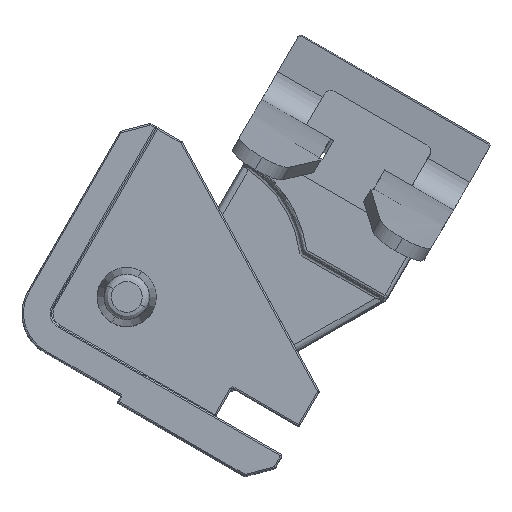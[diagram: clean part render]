
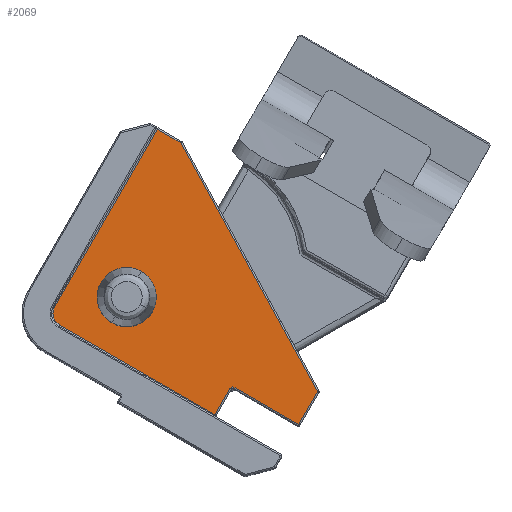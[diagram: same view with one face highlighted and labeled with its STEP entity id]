
A CAD part, top view. The second image highlights one B-rep face of the part: STEP entity #2069.
In plain terms, the highlighted planar face has unit normal (0, 0, 1).
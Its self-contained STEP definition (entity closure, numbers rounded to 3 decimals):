
#117 = DIRECTION ( 'NONE',  ( 1., 0., 0. ) ) ;
#329 = CARTESIAN_POINT ( 'NONE',  ( 4.2, 33.8, 19. ) ) ;
#432 = LINE ( 'NONE', #8897, #2531 ) ;
#497 = DIRECTION ( 'NONE',  ( 1., 0., 0. ) ) ;
#543 = DIRECTION ( 'NONE',  ( 1., 0., 0. ) ) ;
#805 = DIRECTION ( 'NONE',  ( 0., 0., 1. ) ) ;
#811 = EDGE_CURVE ( 'NONE', #4000, #4662, #6044, .T. ) ;
#869 = CARTESIAN_POINT ( 'NONE',  ( 4.2, 6., 19. ) ) ;
#931 = CARTESIAN_POINT ( 'NONE',  ( 16., 12., 19. ) ) ;
#936 = LINE ( 'NONE', #3901, #4251 ) ;
#1111 = DIRECTION ( 'NONE',  ( 1., 0., 0. ) ) ;
#1114 = VECTOR ( 'NONE', #1270, 1000. ) ;
#1270 = DIRECTION ( 'NONE',  ( 0., 1., 0. ) ) ;
#1475 = FACE_BOUND ( 'NONE', #7872, .T. ) ;
#1537 = CIRCLE ( 'NONE', #2079, 4. ) ;
#1747 = CARTESIAN_POINT ( 'NONE',  ( 30.3, 8.5, 19. ) ) ;
#1863 = EDGE_CURVE ( 'NONE', #8396, #2841, #936, .T. ) ;
#2069 = ADVANCED_FACE ( 'NONE', ( #8733, #1475 ), #8252, .T. ) ;
#2079 = AXIS2_PLACEMENT_3D ( 'NONE', #8534, #4355, #117 ) ;
#2223 = DIRECTION ( 'NONE',  ( 0., -1., 0. ) ) ;
#2472 = DIRECTION ( 'NONE',  ( -1., 0., 0. ) ) ;
#2531 = VECTOR ( 'NONE', #4009, 1000. ) ;
#2543 = VECTOR ( 'NONE', #2472, 1000. ) ;
#2572 = CARTESIAN_POINT ( 'NONE',  ( 40.8, 13.887, 19. ) ) ;
#2578 = EDGE_CURVE ( 'NONE', #8487, #8006, #5220, .T. ) ;
#2610 = ORIENTED_EDGE ( 'NONE', *, *, #7527, .T. ) ;
#2812 = ORIENTED_EDGE ( 'NONE', *, *, #3631, .T. ) ;
#2841 = VERTEX_POINT ( 'NONE', #7083 ) ;
#2975 = LINE ( 'NONE', #1747, #1114 ) ;
#3089 = DIRECTION ( 'NONE',  ( 0., 0., 1. ) ) ;
#3334 = CARTESIAN_POINT ( 'NONE',  ( 7.944, 33.8, 19. ) ) ;
#3393 = CARTESIAN_POINT ( 'NONE',  ( 30.7, 8.7, 19. ) ) ;
#3489 = VECTOR ( 'NONE', #2223, 1000. ) ;
#3518 = LINE ( 'NONE', #4830, #7250 ) ;
#3631 = EDGE_CURVE ( 'NONE', #5547, #4000, #3518, .T. ) ;
#3778 = VERTEX_POINT ( 'NONE', #7074 ) ;
#3901 = CARTESIAN_POINT ( 'NONE',  ( 6., 4.2, 19. ) ) ;
#3936 = ORIENTED_EDGE ( 'NONE', *, *, #2578, .F. ) ;
#3939 = EDGE_CURVE ( 'NONE', #2841, #3778, #2975, .T. ) ;
#3982 = ORIENTED_EDGE ( 'NONE', *, *, #5646, .T. ) ;
#4000 = VERTEX_POINT ( 'NONE', #7583 ) ;
#4009 = DIRECTION ( 'NONE',  ( -0.855, 0.518, 0. ) ) ;
#4056 = CARTESIAN_POINT ( 'NONE',  ( 6., 6., 19. ) ) ;
#4181 = VECTOR ( 'NONE', #7355, 1000. ) ;
#4251 = VECTOR ( 'NONE', #1111, 1000. ) ;
#4252 = EDGE_CURVE ( 'NONE', #8208, #8396, #5071, .T. ) ;
#4355 = DIRECTION ( 'NONE',  ( 0., 0., 1. ) ) ;
#4413 = LINE ( 'NONE', #329, #2543 ) ;
#4662 = VERTEX_POINT ( 'NONE', #2572 ) ;
#4732 = DIRECTION ( 'NONE',  ( 0., 0., 1. ) ) ;
#4782 = DIRECTION ( 'NONE',  ( 0., 0., 1. ) ) ;
#4830 = CARTESIAN_POINT ( 'NONE',  ( 41., 8.7, 19. ) ) ;
#4945 = ORIENTED_EDGE ( 'NONE', *, *, #3939, .T. ) ;
#5011 = AXIS2_PLACEMENT_3D ( 'NONE', #5025, #805, #5716 ) ;
#5025 = CARTESIAN_POINT ( 'NONE',  ( 30.7, 8.3, 19. ) ) ;
#5039 = CARTESIAN_POINT ( 'NONE',  ( 4.2, 6., 19. ) ) ;
#5071 = CIRCLE ( 'NONE', #8061, 1.8 ) ;
#5220 = CIRCLE ( 'NONE', #8808, 4. ) ;
#5242 = CARTESIAN_POINT ( 'NONE',  ( 40.8, 14., 19. ) ) ;
#5361 = LINE ( 'NONE', #5039, #3489 ) ;
#5367 = VERTEX_POINT ( 'NONE', #7352 ) ;
#5478 = VERTEX_POINT ( 'NONE', #3334 ) ;
#5547 = VERTEX_POINT ( 'NONE', #3393 ) ;
#5646 = EDGE_CURVE ( 'NONE', #5367, #8208, #5361, .T. ) ;
#5716 = DIRECTION ( 'NONE',  ( 1., 0., 0. ) ) ;
#5777 = ORIENTED_EDGE ( 'NONE', *, *, #7867, .F. ) ;
#6044 = LINE ( 'NONE', #5242, #4181 ) ;
#6254 = EDGE_LOOP ( 'NONE', ( #8771, #2610, #3982, #6436, #7279, #4945, #5777, #2812, #6499 ) ) ;
#6436 = ORIENTED_EDGE ( 'NONE', *, *, #4252, .T. ) ;
#6499 = ORIENTED_EDGE ( 'NONE', *, *, #811, .T. ) ;
#6625 = CARTESIAN_POINT ( 'NONE',  ( 6., 4.2, 19. ) ) ;
#7074 = CARTESIAN_POINT ( 'NONE',  ( 30.3, 8.3, 19. ) ) ;
#7083 = CARTESIAN_POINT ( 'NONE',  ( 30.3, 4.2, 19. ) ) ;
#7250 = VECTOR ( 'NONE', #7628, 1000. ) ;
#7274 = CARTESIAN_POINT ( 'NONE',  ( 6., 6., 19. ) ) ;
#7279 = ORIENTED_EDGE ( 'NONE', *, *, #1863, .T. ) ;
#7352 = CARTESIAN_POINT ( 'NONE',  ( 4.2, 33.8, 19. ) ) ;
#7355 = DIRECTION ( 'NONE',  ( 0., 1., 0. ) ) ;
#7373 = EDGE_CURVE ( 'NONE', #8006, #8487, #1537, .T. ) ;
#7527 = EDGE_CURVE ( 'NONE', #5478, #5367, #4413, .T. ) ;
#7583 = CARTESIAN_POINT ( 'NONE',  ( 40.8, 8.7, 19. ) ) ;
#7628 = DIRECTION ( 'NONE',  ( 1., 0., 0. ) ) ;
#7867 = EDGE_CURVE ( 'NONE', #5547, #3778, #8028, .T. ) ;
#7872 = EDGE_LOOP ( 'NONE', ( #3936, #8618 ) ) ;
#7981 = DIRECTION ( 'NONE',  ( 1., 0., 0. ) ) ;
#8006 = VERTEX_POINT ( 'NONE', #931 ) ;
#8028 = CIRCLE ( 'NONE', #5011, 0.4 ) ;
#8061 = AXIS2_PLACEMENT_3D ( 'NONE', #7274, #3089, #7981 ) ;
#8094 = AXIS2_PLACEMENT_3D ( 'NONE', #4056, #4782, #543 ) ;
#8119 = EDGE_CURVE ( 'NONE', #4662, #5478, #432, .T. ) ;
#8208 = VERTEX_POINT ( 'NONE', #869 ) ;
#8252 = PLANE ( 'NONE',  #8094 ) ;
#8396 = VERTEX_POINT ( 'NONE', #6625 ) ;
#8487 = VERTEX_POINT ( 'NONE', #8853 ) ;
#8534 = CARTESIAN_POINT ( 'NONE',  ( 12., 12., 19. ) ) ;
#8618 = ORIENTED_EDGE ( 'NONE', *, *, #7373, .F. ) ;
#8733 = FACE_OUTER_BOUND ( 'NONE', #6254, .T. ) ;
#8771 = ORIENTED_EDGE ( 'NONE', *, *, #8119, .T. ) ;
#8808 = AXIS2_PLACEMENT_3D ( 'NONE', #8898, #4732, #497 ) ;
#8853 = CARTESIAN_POINT ( 'NONE',  ( 8., 12., 19. ) ) ;
#8897 = CARTESIAN_POINT ( 'NONE',  ( 7.896, 33.829, 19. ) ) ;
#8898 = CARTESIAN_POINT ( 'NONE',  ( 12., 12., 19. ) ) ;
